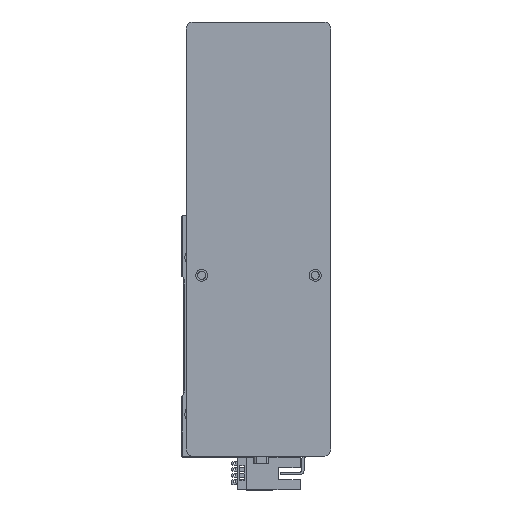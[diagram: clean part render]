
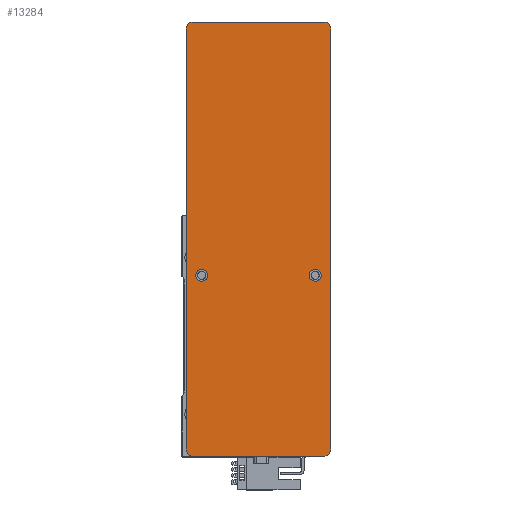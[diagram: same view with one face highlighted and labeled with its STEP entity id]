
A CAD part, top view. The second image highlights one B-rep face of the part: STEP entity #13284.
In plain terms, the highlighted planar face has unit normal (0, 0, 1) as drawn and (0, 0, -1) by its records, which use the part's own axes.
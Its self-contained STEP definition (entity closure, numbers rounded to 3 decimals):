
#17 = DIRECTION ( 'NONE',  ( 1., 0., 0. ) ) ;
#151 = EDGE_CURVE ( 'NONE', #36899, #29131, #12526, .T. ) ;
#376 = AXIS2_PLACEMENT_3D ( 'NONE', #22491, #4983, #25404 ) ;
#1858 = CARTESIAN_POINT ( 'NONE',  ( 90., 30., 0. ) ) ;
#1875 = CARTESIAN_POINT ( 'NONE',  ( 90., -27., 0. ) ) ;
#2085 = CARTESIAN_POINT ( 'NONE',  ( -15., 23.5, 0. ) ) ;
#2124 = AXIS2_PLACEMENT_3D ( 'NONE', #14643, #35066, #17579 ) ;
#2171 = EDGE_LOOP ( 'NONE', ( #4686, #3695 ) ) ;
#3140 = EDGE_CURVE ( 'NONE', #22375, #10436, #12659, .T. ) ;
#3173 = AXIS2_PLACEMENT_3D ( 'NONE', #4514, #24912, #7400 ) ;
#3695 = ORIENTED_EDGE ( 'NONE', *, *, #5418, .F. ) ;
#3989 = EDGE_CURVE ( 'NONE', #27447, #27660, #13871, .T. ) ;
#4514 = CARTESIAN_POINT ( 'NONE',  ( -15., 23.5, 0. ) ) ;
#4556 = LINE ( 'NONE', #36499, #20071 ) ;
#4640 = CARTESIAN_POINT ( 'NONE',  ( -15., -23.5, 0. ) ) ;
#4686 = ORIENTED_EDGE ( 'NONE', *, *, #9816, .F. ) ;
#4983 = DIRECTION ( 'NONE',  ( 0., 0., -1. ) ) ;
#5060 = DIRECTION ( 'NONE',  ( -1., 0., 0. ) ) ;
#5276 = DIRECTION ( 'NONE',  ( 0., 0., 1. ) ) ;
#5418 = EDGE_CURVE ( 'NONE', #16227, #8726, #26818, .T. ) ;
#6255 = EDGE_CURVE ( 'NONE', #25171, #27116, #4556, .T. ) ;
#6322 = CARTESIAN_POINT ( 'NONE',  ( -15., -23.5, 0. ) ) ;
#6515 = CARTESIAN_POINT ( 'NONE',  ( 90., 27., 0. ) ) ;
#6541 = ORIENTED_EDGE ( 'NONE', *, *, #3140, .F. ) ;
#6887 = EDGE_CURVE ( 'NONE', #16961, #27116, #35490, .T. ) ;
#7062 = CARTESIAN_POINT ( 'NONE',  ( 90., -30., 0. ) ) ;
#7400 = DIRECTION ( 'NONE',  ( -1., 0., 0. ) ) ;
#7451 = ORIENTED_EDGE ( 'NONE', *, *, #9730, .T. ) ;
#7530 = DIRECTION ( 'NONE',  ( -1., 0., 0. ) ) ;
#7627 = CARTESIAN_POINT ( 'NONE',  ( -90., -30., 0. ) ) ;
#7869 = LINE ( 'NONE', #7062, #22521 ) ;
#8374 = CIRCLE ( 'NONE', #19806, 2.5 ) ;
#8614 = FACE_BOUND ( 'NONE', #2171, .T. ) ;
#8726 = VERTEX_POINT ( 'NONE', #11978 ) ;
#9270 = DIRECTION ( 'NONE',  ( -1., 0., 0. ) ) ;
#9730 = EDGE_CURVE ( 'NONE', #25171, #10436, #27609, .T. ) ;
#9816 = EDGE_CURVE ( 'NONE', #8726, #16227, #8374, .T. ) ;
#10014 = DIRECTION ( 'NONE',  ( 0., 1., 0. ) ) ;
#10436 = VERTEX_POINT ( 'NONE', #20560 ) ;
#10580 = ORIENTED_EDGE ( 'NONE', *, *, #6887, .T. ) ;
#11277 = DIRECTION ( 'NONE',  ( 1., 0., 0. ) ) ;
#11320 = CIRCLE ( 'NONE', #34609, 3. ) ;
#11978 = CARTESIAN_POINT ( 'NONE',  ( -17.5, -23.5, 0. ) ) ;
#12526 = LINE ( 'NONE', #1858, #28060 ) ;
#12659 = LINE ( 'NONE', #7627, #35922 ) ;
#13212 = CARTESIAN_POINT ( 'NONE',  ( -12.5, -23.5, 0. ) ) ;
#13284 = ADVANCED_FACE ( 'NONE', ( #16409, #8614, #24174 ), #22883, .F. ) ;
#13669 = CARTESIAN_POINT ( 'NONE',  ( -12.5, 23.5, 0. ) ) ;
#13871 = CIRCLE ( 'NONE', #14998, 2.5 ) ;
#14643 = CARTESIAN_POINT ( 'NONE',  ( -87., -27., 0. ) ) ;
#14688 = CARTESIAN_POINT ( 'NONE',  ( 87., -30., 0. ) ) ;
#14998 = AXIS2_PLACEMENT_3D ( 'NONE', #2085, #22563, #5060 ) ;
#15425 = CARTESIAN_POINT ( 'NONE',  ( -87., 27., 0. ) ) ;
#16227 = VERTEX_POINT ( 'NONE', #13212 ) ;
#16409 = FACE_BOUND ( 'NONE', #17141, .T. ) ;
#16961 = VERTEX_POINT ( 'NONE', #1875 ) ;
#17141 = EDGE_LOOP ( 'NONE', ( #31396, #20946 ) ) ;
#17515 = DIRECTION ( 'NONE',  ( 0., 0., -1. ) ) ;
#17579 = DIRECTION ( 'NONE',  ( 1., 0., 0. ) ) ;
#18400 = DIRECTION ( 'NONE',  ( 1., 0., 0. ) ) ;
#18428 = CARTESIAN_POINT ( 'NONE',  ( 87., 30., 0. ) ) ;
#18974 = AXIS2_PLACEMENT_3D ( 'NONE', #25823, #5276, #11277 ) ;
#19610 = VERTEX_POINT ( 'NONE', #6515 ) ;
#19806 = AXIS2_PLACEMENT_3D ( 'NONE', #6322, #26800, #9270 ) ;
#20071 = VECTOR ( 'NONE', #30512, 1000. ) ;
#20191 = EDGE_CURVE ( 'NONE', #22375, #29131, #11320, .T. ) ;
#20560 = CARTESIAN_POINT ( 'NONE',  ( -90., -27., 0. ) ) ;
#20946 = ORIENTED_EDGE ( 'NONE', *, *, #3989, .F. ) ;
#21184 = AXIS2_PLACEMENT_3D ( 'NONE', #35007, #17515, #17 ) ;
#22195 = CIRCLE ( 'NONE', #3173, 2.5 ) ;
#22375 = VERTEX_POINT ( 'NONE', #33506 ) ;
#22491 = CARTESIAN_POINT ( 'NONE',  ( 87., -27., 0. ) ) ;
#22521 = VECTOR ( 'NONE', #10014, 1000. ) ;
#22563 = DIRECTION ( 'NONE',  ( 0., 0., -1. ) ) ;
#22883 = PLANE ( 'NONE',  #18974 ) ;
#24174 = FACE_OUTER_BOUND ( 'NONE', #26280, .T. ) ;
#24912 = DIRECTION ( 'NONE',  ( 0., 0., -1. ) ) ;
#25051 = DIRECTION ( 'NONE',  ( 0., 0., -1. ) ) ;
#25056 = EDGE_CURVE ( 'NONE', #36899, #19610, #25183, .T. ) ;
#25171 = VERTEX_POINT ( 'NONE', #26864 ) ;
#25183 = CIRCLE ( 'NONE', #21184, 3. ) ;
#25268 = DIRECTION ( 'NONE',  ( -1., 0., 0. ) ) ;
#25404 = DIRECTION ( 'NONE',  ( 1., 0., 0. ) ) ;
#25823 = CARTESIAN_POINT ( 'NONE',  ( 0., 0., 0. ) ) ;
#26280 = EDGE_LOOP ( 'NONE', ( #31772, #10580, #29042, #7451, #6541, #29939, #30615, #27272 ) ) ;
#26418 = CARTESIAN_POINT ( 'NONE',  ( -87., 30., 0. ) ) ;
#26800 = DIRECTION ( 'NONE',  ( 0., 0., -1. ) ) ;
#26818 = CIRCLE ( 'NONE', #35052, 2.5 ) ;
#26864 = CARTESIAN_POINT ( 'NONE',  ( -87., -30., 0. ) ) ;
#27116 = VERTEX_POINT ( 'NONE', #14688 ) ;
#27272 = ORIENTED_EDGE ( 'NONE', *, *, #25056, .T. ) ;
#27447 = VERTEX_POINT ( 'NONE', #13669 ) ;
#27609 = CIRCLE ( 'NONE', #2124, 3. ) ;
#27660 = VERTEX_POINT ( 'NONE', #35196 ) ;
#28060 = VECTOR ( 'NONE', #25268, 1000. ) ;
#28066 = DIRECTION ( 'NONE',  ( 0., -1., 0. ) ) ;
#29042 = ORIENTED_EDGE ( 'NONE', *, *, #6255, .F. ) ;
#29131 = VERTEX_POINT ( 'NONE', #26418 ) ;
#29939 = ORIENTED_EDGE ( 'NONE', *, *, #20191, .T. ) ;
#30512 = DIRECTION ( 'NONE',  ( 1., 0., 0. ) ) ;
#30615 = ORIENTED_EDGE ( 'NONE', *, *, #151, .F. ) ;
#31396 = ORIENTED_EDGE ( 'NONE', *, *, #37028, .F. ) ;
#31739 = EDGE_CURVE ( 'NONE', #16961, #19610, #7869, .T. ) ;
#31772 = ORIENTED_EDGE ( 'NONE', *, *, #31739, .F. ) ;
#33506 = CARTESIAN_POINT ( 'NONE',  ( -90., 27., 0. ) ) ;
#34609 = AXIS2_PLACEMENT_3D ( 'NONE', #15425, #35844, #18400 ) ;
#35007 = CARTESIAN_POINT ( 'NONE',  ( 87., 27., 0. ) ) ;
#35052 = AXIS2_PLACEMENT_3D ( 'NONE', #4640, #25051, #7530 ) ;
#35066 = DIRECTION ( 'NONE',  ( 0., 0., -1. ) ) ;
#35196 = CARTESIAN_POINT ( 'NONE',  ( -17.5, 23.5, 0. ) ) ;
#35490 = CIRCLE ( 'NONE', #376, 3. ) ;
#35844 = DIRECTION ( 'NONE',  ( 0., 0., -1. ) ) ;
#35922 = VECTOR ( 'NONE', #28066, 1000. ) ;
#36499 = CARTESIAN_POINT ( 'NONE',  ( 90., -30., 0. ) ) ;
#36899 = VERTEX_POINT ( 'NONE', #18428 ) ;
#37028 = EDGE_CURVE ( 'NONE', #27660, #27447, #22195, .T. ) ;
